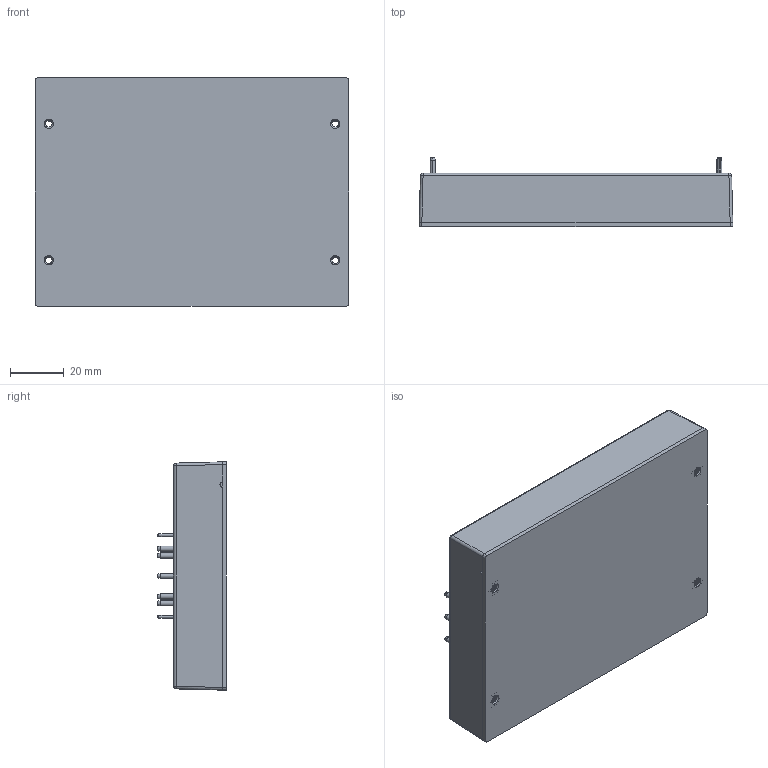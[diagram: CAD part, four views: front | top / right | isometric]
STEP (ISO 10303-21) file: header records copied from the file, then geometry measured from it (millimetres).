
FILE_DESCRIPTION (( 'STEP AP214' ), '1' );
FILE_NAME ('ASB320.STEP', '2026-02-19T01:41:39', ( '' ), ( '' ), 'SwSTEP 2.0', 'SolidWorks 2024', '' );
FILE_SCHEMA (( 'AUTOMOTIVE_DESIGN' ));
Length unit declared in the file: millimetre
Products named in the file (1): ASB320
Bounding box: 116.8 x 25.6 x 85 mm (x, y, z)
Volume: 71635.4 mm3; surface area: 76166.5 mm2
Topology: 1 solids, 5 shells, 1203 faces, 3227 edges, 2115 vertices
Faces by surface type: plane 495, cylinder 458, bspline 166, cone 80, sphere 4
Entity records: 59575 total; most frequent: CARTESIAN_POINT 31996, ORIENTED_EDGE 6454, DIRECTION 4718, EDGE_CURVE 3227, VERTEX_POINT 2115, VECTOR 1868, LINE 1868, AXIS2_PLACEMENT_3D 1425
